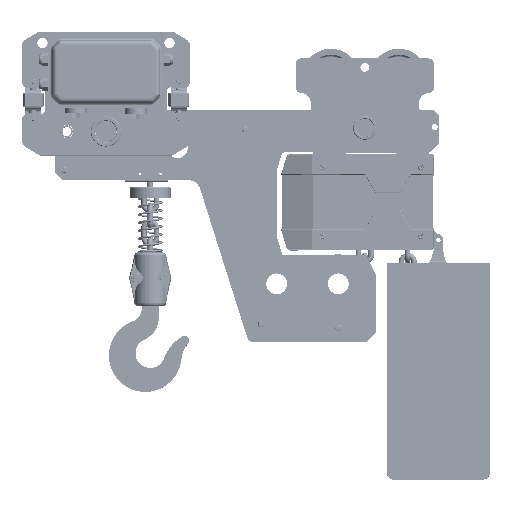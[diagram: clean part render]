
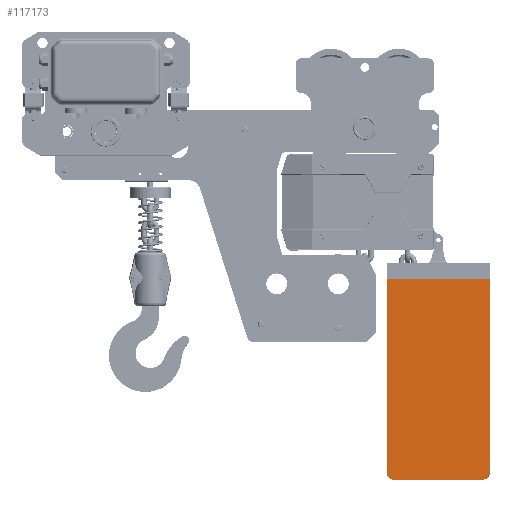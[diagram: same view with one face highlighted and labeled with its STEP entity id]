
A CAD part, top view. The second image highlights one B-rep face of the part: STEP entity #117173.
In plain terms, the highlighted planar face has unit normal (0, 0, 1).
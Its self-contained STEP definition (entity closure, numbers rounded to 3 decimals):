
#6790=LINE('',#212313,#15363);
#6891=LINE('',#212815,#15464);
#6897=LINE('',#212831,#15470);
#6898=LINE('',#212835,#15471);
#15363=VECTOR('',#150128,1000.);
#15464=VECTOR('',#150369,1000.);
#15470=VECTOR('',#150383,1000.);
#15471=VECTOR('',#150388,1000.);
#20905=PLANE('',#127470);
#46020=ORIENTED_EDGE('',*,*,#69878,.F.);
#46021=ORIENTED_EDGE('',*,*,#70023,.F.);
#46022=ORIENTED_EDGE('',*,*,#70024,.T.);
#46023=ORIENTED_EDGE('',*,*,#70025,.T.);
#46024=ORIENTED_EDGE('',*,*,#70026,.T.);
#46025=ORIENTED_EDGE('',*,*,#70015,.T.);
#69878=EDGE_CURVE('',#83505,#83506,#6790,.T.);
#70015=EDGE_CURVE('',#83588,#83506,#6891,.T.);
#70023=EDGE_CURVE('',#83593,#83505,#6897,.T.);
#70024=EDGE_CURVE('',#83593,#83594,#90953,.T.);
#70025=EDGE_CURVE('',#83594,#83595,#6898,.T.);
#70026=EDGE_CURVE('',#83595,#83588,#90954,.T.);
#83505=VERTEX_POINT('',#212314);
#83506=VERTEX_POINT('',#212315);
#83588=VERTEX_POINT('',#212816);
#83593=VERTEX_POINT('',#212830);
#83594=VERTEX_POINT('',#212834);
#83595=VERTEX_POINT('',#212836);
#90953=CIRCLE('',#127471,15.);
#90954=CIRCLE('',#127472,15.);
#98477=EDGE_LOOP('',(#46020,#46021,#46022,#46023,#46024,#46025));
#107252=FACE_BOUND('',#98477,.T.);
#117173=ADVANCED_FACE('',(#107252),#20905,.T.);
#127470=AXIS2_PLACEMENT_3D('',#212832,#150384,#150385);
#127471=AXIS2_PLACEMENT_3D('',#212833,#150386,#150387);
#127472=AXIS2_PLACEMENT_3D('',#212837,#150389,#150390);
#150128=DIRECTION('',(1.,0.,0.));
#150369=DIRECTION('',(0.,1.,0.));
#150383=DIRECTION('',(0.,1.,0.));
#150384=DIRECTION('',(0.,0.,1.));
#150385=DIRECTION('',(-1.,0.,0.));
#150386=DIRECTION('',(0.,0.,1.));
#150387=DIRECTION('',(1.,0.,0.));
#150388=DIRECTION('',(1.,0.,0.));
#150389=DIRECTION('',(0.,0.,1.));
#150390=DIRECTION('',(1.,0.,0.));
#212313=CARTESIAN_POINT('',(1744.812,143.396,196.225));
#212314=CARTESIAN_POINT('',(1714.812,143.396,196.225));
#212315=CARTESIAN_POINT('',(1924.312,143.396,196.225));
#212815=CARTESIAN_POINT('',(1924.312,170.396,196.225));
#212816=CARTESIAN_POINT('',(1924.312,-249.604,196.225));
#212830=CARTESIAN_POINT('',(1714.812,-249.604,196.225));
#212831=CARTESIAN_POINT('',(1714.812,941.888,196.225));
#212832=CARTESIAN_POINT('',(1744.812,170.396,196.225));
#212833=CARTESIAN_POINT('',(1729.812,-249.604,196.225));
#212834=CARTESIAN_POINT('',(1729.812,-264.604,196.225));
#212835=CARTESIAN_POINT('',(1742.812,-264.604,196.225));
#212836=CARTESIAN_POINT('',(1909.312,-264.604,196.225));
#212837=CARTESIAN_POINT('',(1909.312,-249.604,196.225));
